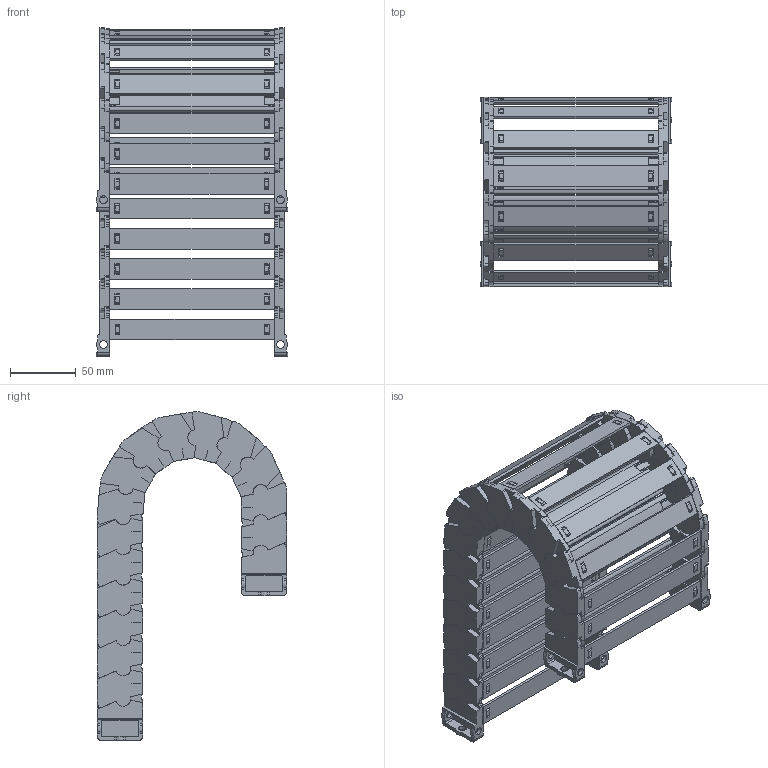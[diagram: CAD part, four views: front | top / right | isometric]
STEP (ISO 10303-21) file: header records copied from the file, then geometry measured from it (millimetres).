
FILE_DESCRIPTION((''),'2;1');
FILE_NAME('JY-25X125-R55_ASM','2022-05-07T10:17:40',('admin'),(''),'CREO PARAMETRIC BY PTC INC, 2021164','CREO PARAMETRIC BY PTC INC, 2021164','');
FILE_SCHEMA(('CONFIG_CONTROL_DESIGN','GEOMETRIC_VALIDATION_PROPERTIES_MIM'));
Length unit declared in the file: millimetre
Products named in the file (11): 25XL-L; 25-35XL-YP; 25XL-R; ASM0001_ASM; 25-LTT-A-L; 25-LTT-A-R; 25XL-LTT-A_ASM; 25-LTT-B-L; 25-LTT-B-R; 25XL-LTT-B_ASM; JY-25X125-R55_ASM
Assembly tree (29 placements, depth 3):
  JY-25X125-R55_ASM
    ASM0001_ASM  x15
      25XL-L
      25-35XL-YP
      25XL-R
    25XL-LTT-A_ASM
      25-LTT-A-L
      25-35XL-YP  x2
      25-LTT-A-R
    25XL-LTT-B_ASM
      25-LTT-B-L
      25-35XL-YP  x2
      25-LTT-B-R
Bounding box: 146.18 x 144.67 x 250.78 mm (x, y, z)
Volume: 408912.2 mm3; surface area: 300282.9 mm2
Topology: 68 solids, 83 shells, 3544 faces, 10581 edges, 7156 vertices
Faces by surface type: plane 2605, cylinder 909, cone 30
Entity records: 24023 total; most frequent: CARTESIAN_POINT 3114, DIRECTION 3009, ORIENTED_EDGE 2962, EDGE_CURVE 1483, PRESENTATION_STYLE_ASSIGNMENT 1413, STYLED_ITEM 1381, VECTOR 1053, LINE 1053
